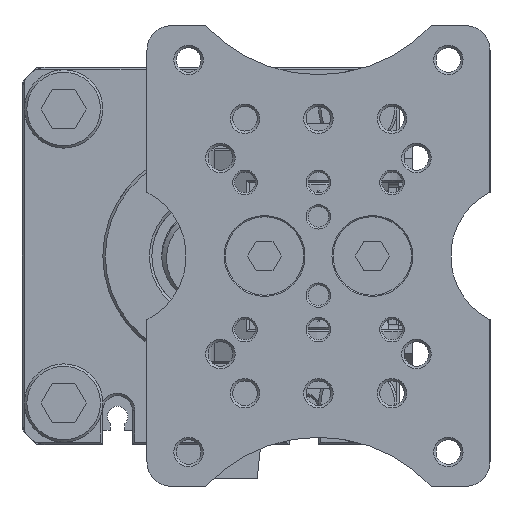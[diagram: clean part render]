
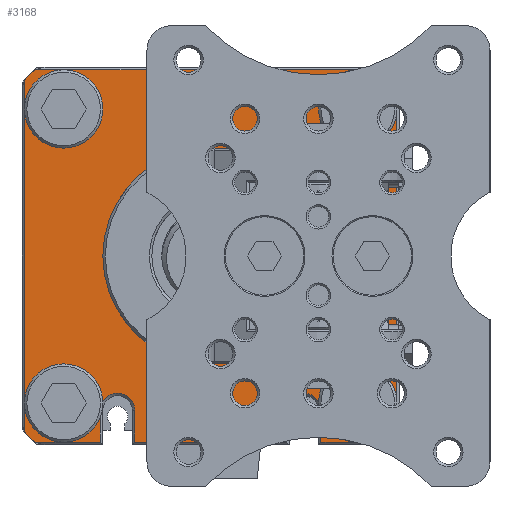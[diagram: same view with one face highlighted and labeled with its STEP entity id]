
A CAD part, front view. The second image highlights one B-rep face of the part: STEP entity #3168.
In plain terms, the highlighted planar face has unit normal (0, -1, 0).
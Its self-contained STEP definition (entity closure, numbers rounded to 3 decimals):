
#489=LINE('',#18473,#1389);
#496=LINE('',#18496,#1396);
#498=LINE('',#18508,#1398);
#510=LINE('',#18558,#1410);
#511=LINE('',#18562,#1411);
#512=LINE('',#18564,#1412);
#513=LINE('',#18568,#1413);
#514=LINE('',#18570,#1414);
#515=LINE('',#18572,#1415);
#516=LINE('',#18576,#1416);
#517=LINE('',#18578,#1417);
#518=LINE('',#18590,#1418);
#519=LINE('',#18595,#1419);
#1389=VECTOR('',#14813,1.);
#1396=VECTOR('',#14834,1.);
#1398=VECTOR('',#14848,1.);
#1410=VECTOR('',#14894,1.);
#1411=VECTOR('',#14897,1.);
#1412=VECTOR('',#14898,1.);
#1413=VECTOR('',#14901,1.);
#1414=VECTOR('',#14902,1.);
#1415=VECTOR('',#14903,1.);
#1416=VECTOR('',#14906,1.);
#1417=VECTOR('',#14907,1.);
#1418=VECTOR('',#14918,1.);
#1419=VECTOR('',#14923,1.);
#3168=ADVANCED_FACE('',(#4377,#4378,#4379,#4380,#4381,#4382),#3939,.T.);
#3939=PLANE('',#13147);
#4377=FACE_BOUND('',#5204,.T.);
#4378=FACE_BOUND('',#5205,.T.);
#4379=FACE_BOUND('',#5206,.T.);
#4380=FACE_BOUND('',#5207,.T.);
#4381=FACE_BOUND('',#5208,.T.);
#4382=FACE_BOUND('',#5209,.T.);
#5204=EDGE_LOOP('',(#6796,#6797,#6798,#6799,#6800,#6801,#6802,#6803,#6804,
#6805,#6806,#6807,#6808,#6809,#6810,#6811));
#5205=EDGE_LOOP('',(#6812));
#5206=EDGE_LOOP('',(#6813));
#5207=EDGE_LOOP('',(#6814));
#5208=EDGE_LOOP('',(#6815));
#5209=EDGE_LOOP('',(#6816,#6817,#6818,#6819,#6820,#6821));
#6796=ORIENTED_EDGE('',*,*,#11029,.T.);
#6797=ORIENTED_EDGE('',*,*,#11030,.F.);
#6798=ORIENTED_EDGE('',*,*,#11031,.T.);
#6799=ORIENTED_EDGE('',*,*,#11032,.T.);
#6800=ORIENTED_EDGE('',*,*,#11033,.T.);
#6801=ORIENTED_EDGE('',*,*,#11034,.T.);
#6802=ORIENTED_EDGE('',*,*,#11035,.T.);
#6803=ORIENTED_EDGE('',*,*,#11036,.T.);
#6804=ORIENTED_EDGE('',*,*,#11037,.T.);
#6805=ORIENTED_EDGE('',*,*,#11038,.T.);
#6806=ORIENTED_EDGE('',*,*,#11039,.T.);
#6807=ORIENTED_EDGE('',*,*,#11040,.T.);
#6808=ORIENTED_EDGE('',*,*,#11005,.F.);
#6809=ORIENTED_EDGE('',*,*,#11003,.F.);
#6810=ORIENTED_EDGE('',*,*,#10999,.T.);
#6811=ORIENTED_EDGE('',*,*,#10997,.T.);
#6812=ORIENTED_EDGE('',*,*,#11041,.T.);
#6813=ORIENTED_EDGE('',*,*,#11042,.T.);
#6814=ORIENTED_EDGE('',*,*,#11043,.T.);
#6815=ORIENTED_EDGE('',*,*,#11028,.T.);
#6816=ORIENTED_EDGE('',*,*,#11044,.F.);
#6817=ORIENTED_EDGE('',*,*,#11045,.T.);
#6818=ORIENTED_EDGE('',*,*,#11046,.T.);
#6819=ORIENTED_EDGE('',*,*,#10988,.T.);
#6820=ORIENTED_EDGE('',*,*,#11047,.T.);
#6821=ORIENTED_EDGE('',*,*,#11048,.T.);
#9737=VERTEX_POINT('',#18472);
#9738=VERTEX_POINT('',#18474);
#9745=VERTEX_POINT('',#18491);
#9746=VERTEX_POINT('',#18493);
#9747=VERTEX_POINT('',#18497);
#9750=VERTEX_POINT('',#18505);
#9751=VERTEX_POINT('',#18509);
#9771=VERTEX_POINT('',#18556);
#9772=VERTEX_POINT('',#18559);
#9773=VERTEX_POINT('',#18561);
#9774=VERTEX_POINT('',#18563);
#9775=VERTEX_POINT('',#18565);
#9776=VERTEX_POINT('',#18567);
#9777=VERTEX_POINT('',#18569);
#9778=VERTEX_POINT('',#18571);
#9779=VERTEX_POINT('',#18573);
#9780=VERTEX_POINT('',#18575);
#9781=VERTEX_POINT('',#18577);
#9782=VERTEX_POINT('',#18579);
#9783=VERTEX_POINT('',#18582);
#9784=VERTEX_POINT('',#18584);
#9785=VERTEX_POINT('',#18586);
#9786=VERTEX_POINT('',#18588);
#9787=VERTEX_POINT('',#18589);
#9788=VERTEX_POINT('',#18591);
#9789=VERTEX_POINT('',#18594);
#10988=EDGE_CURVE('',#9738,#9737,#489,.T.);
#10997=EDGE_CURVE('',#9746,#9745,#12484,.T.);
#10999=EDGE_CURVE('',#9747,#9746,#496,.T.);
#11003=EDGE_CURVE('',#9747,#9750,#12486,.T.);
#11005=EDGE_CURVE('',#9750,#9751,#498,.T.);
#11028=EDGE_CURVE('',#9771,#9771,#12497,.T.);
#11029=EDGE_CURVE('',#9745,#9772,#510,.T.);
#11030=EDGE_CURVE('',#9773,#9772,#12498,.T.);
#11031=EDGE_CURVE('',#9773,#9774,#511,.T.);
#11032=EDGE_CURVE('',#9774,#9775,#512,.T.);
#11033=EDGE_CURVE('',#9775,#9776,#12499,.T.);
#11034=EDGE_CURVE('',#9776,#9777,#513,.T.);
#11035=EDGE_CURVE('',#9777,#9778,#514,.T.);
#11036=EDGE_CURVE('',#9778,#9779,#515,.T.);
#11037=EDGE_CURVE('',#9779,#9780,#12500,.T.);
#11038=EDGE_CURVE('',#9780,#9781,#516,.T.);
#11039=EDGE_CURVE('',#9781,#9782,#517,.T.);
#11040=EDGE_CURVE('',#9782,#9751,#12501,.T.);
#11041=EDGE_CURVE('',#9783,#9783,#12502,.T.);
#11042=EDGE_CURVE('',#9784,#9784,#12503,.T.);
#11043=EDGE_CURVE('',#9785,#9785,#12504,.T.);
#11044=EDGE_CURVE('',#9786,#9787,#12505,.T.);
#11045=EDGE_CURVE('',#9786,#9788,#518,.T.);
#11046=EDGE_CURVE('',#9788,#9738,#12506,.T.);
#11047=EDGE_CURVE('',#9737,#9789,#12507,.T.);
#11048=EDGE_CURVE('',#9789,#9787,#519,.T.);
#12484=CIRCLE('',#13111,5.);
#12486=CIRCLE('',#13117,5.);
#12497=CIRCLE('',#13135,5.8);
#12498=CIRCLE('',#13137,5.);
#12499=CIRCLE('',#13138,3.5);
#12500=CIRCLE('',#13139,3.5);
#12501=CIRCLE('',#13140,5.);
#12502=CIRCLE('',#13141,5.8);
#12503=CIRCLE('',#13142,5.8);
#12504=CIRCLE('',#13143,5.8);
#12505=CIRCLE('',#13144,22.);
#12506=CIRCLE('',#13145,6.);
#12507=CIRCLE('',#13146,6.);
#13111=AXIS2_PLACEMENT_3D('',#18492,#14828,#14829);
#13117=AXIS2_PLACEMENT_3D('',#18504,#14842,#14843);
#13135=AXIS2_PLACEMENT_3D('',#18555,#14890,#14891);
#13137=AXIS2_PLACEMENT_3D('',#18560,#14895,#14896);
#13138=AXIS2_PLACEMENT_3D('',#18566,#14899,#14900);
#13139=AXIS2_PLACEMENT_3D('',#18574,#14904,#14905);
#13140=AXIS2_PLACEMENT_3D('',#18580,#14908,#14909);
#13141=AXIS2_PLACEMENT_3D('',#18581,#14910,#14911);
#13142=AXIS2_PLACEMENT_3D('',#18583,#14912,#14913);
#13143=AXIS2_PLACEMENT_3D('',#18585,#14914,#14915);
#13144=AXIS2_PLACEMENT_3D('',#18587,#14916,#14917);
#13145=AXIS2_PLACEMENT_3D('',#18592,#14919,#14920);
#13146=AXIS2_PLACEMENT_3D('',#18593,#14921,#14922);
#13147=AXIS2_PLACEMENT_3D('',#18596,#14924,#14925);
#14813=DIRECTION('',(0.,0.,-1.));
#14828=DIRECTION('',(0.,-1.,0.));
#14829=DIRECTION('',(-0.436,0.,0.9));
#14834=DIRECTION('',(-1.,0.,0.));
#14842=DIRECTION('',(0.,1.,0.));
#14843=DIRECTION('',(0.436,0.,0.9));
#14848=DIRECTION('',(0.,0.,-1.));
#14890=DIRECTION('',(0.,1.,0.));
#14891=DIRECTION('',(0.,0.,-1.));
#14894=DIRECTION('',(0.,0.,-1.));
#14895=DIRECTION('',(0.,1.,0.));
#14896=DIRECTION('',(-0.436,0.,-0.9));
#14897=DIRECTION('',(1.,0.,0.));
#14898=DIRECTION('',(0.,0.,1.));
#14899=DIRECTION('',(0.,1.,0.));
#14900=DIRECTION('',(-1.,0.,0.));
#14901=DIRECTION('',(0.,0.,-1.));
#14902=DIRECTION('',(1.,0.,0.));
#14903=DIRECTION('',(0.,0.,1.));
#14904=DIRECTION('',(0.,1.,0.));
#14905=DIRECTION('',(-1.,0.,0.));
#14906=DIRECTION('',(0.,0.,-1.));
#14907=DIRECTION('',(1.,0.,0.));
#14908=DIRECTION('',(0.,-1.,0.));
#14909=DIRECTION('',(0.436,0.,-0.9));
#14910=DIRECTION('',(0.,1.,0.));
#14911=DIRECTION('',(0.,0.,1.));
#14912=DIRECTION('',(0.,1.,0.));
#14913=DIRECTION('',(0.,0.,1.));
#14914=DIRECTION('',(0.,1.,0.));
#14915=DIRECTION('',(0.,0.,-1.));
#14916=DIRECTION('',(0.,-1.,0.));
#14917=DIRECTION('',(0.,0.,1.));
#14918=DIRECTION('',(1.,0.,0.));
#14919=DIRECTION('',(0.,1.,0.));
#14920=DIRECTION('',(0.,0.,1.));
#14921=DIRECTION('',(0.,1.,0.));
#14922=DIRECTION('',(1.,0.,0.));
#14923=DIRECTION('',(-1.,0.,0.));
#14924=DIRECTION('',(0.,-1.,0.));
#14925=DIRECTION('',(-1.,0.,0.));
#18472=CARTESIAN_POINT('',(55.75,-11.,-54.5));
#18473=CARTESIAN_POINT('',(55.75,-11.,-22.5));
#18474=CARTESIAN_POINT('',(55.75,-11.,-22.5));
#18491=CARTESIAN_POINT('',(0.5,-11.,-2.821));
#18492=CARTESIAN_POINT('',(5.,-11.,-5.));
#18493=CARTESIAN_POINT('',(2.821,-11.,-0.5));
#18496=CARTESIAN_POINT('',(74.179,-11.,-0.5));
#18497=CARTESIAN_POINT('',(74.179,-11.,-0.5));
#18504=CARTESIAN_POINT('',(72.,-11.,-5.));
#18505=CARTESIAN_POINT('',(76.5,-11.,-2.821));
#18508=CARTESIAN_POINT('',(76.5,-11.,-2.821));
#18509=CARTESIAN_POINT('',(76.5,-11.,-74.179));
#18555=CARTESIAN_POINT('',(8.5,-11.,-8.5));
#18556=CARTESIAN_POINT('',(8.5,-11.,-14.3));
#18558=CARTESIAN_POINT('',(0.5,-11.,-2.821));
#18559=CARTESIAN_POINT('',(0.5,-11.,-74.179));
#18560=CARTESIAN_POINT('',(5.,-11.,-72.));
#18561=CARTESIAN_POINT('',(2.821,-11.,-76.5));
#18562=CARTESIAN_POINT('',(2.821,-11.,-76.5));
#18563=CARTESIAN_POINT('',(16.,-11.,-76.5));
#18564=CARTESIAN_POINT('',(16.,-11.,-76.5));
#18565=CARTESIAN_POINT('',(16.,-11.,-70.));
#18566=CARTESIAN_POINT('',(19.5,-11.,-70.));
#18567=CARTESIAN_POINT('',(23.,-11.,-70.));
#18568=CARTESIAN_POINT('',(23.,-11.,-70.));
#18569=CARTESIAN_POINT('',(23.,-11.,-76.5));
#18570=CARTESIAN_POINT('',(23.,-11.,-76.5));
#18571=CARTESIAN_POINT('',(54.,-11.,-76.5));
#18572=CARTESIAN_POINT('',(54.,-11.,-76.5));
#18573=CARTESIAN_POINT('',(54.,-11.,-70.));
#18574=CARTESIAN_POINT('',(57.5,-11.,-70.));
#18575=CARTESIAN_POINT('',(61.,-11.,-70.));
#18576=CARTESIAN_POINT('',(61.,-11.,-70.));
#18577=CARTESIAN_POINT('',(61.,-11.,-76.5));
#18578=CARTESIAN_POINT('',(61.,-11.,-76.5));
#18579=CARTESIAN_POINT('',(74.179,-11.,-76.5));
#18580=CARTESIAN_POINT('',(72.,-11.,-72.));
#18581=CARTESIAN_POINT('',(68.5,-11.,-68.5));
#18582=CARTESIAN_POINT('',(68.5,-11.,-62.7));
#18583=CARTESIAN_POINT('',(68.5,-11.,-8.5));
#18584=CARTESIAN_POINT('',(68.5,-11.,-2.7));
#18585=CARTESIAN_POINT('',(8.5,-11.,-68.5));
#18586=CARTESIAN_POINT('',(8.5,-11.,-74.3));
#18587=CARTESIAN_POINT('',(38.5,-11.,-38.5));
#18588=CARTESIAN_POINT('',(38.5,-11.,-16.5));
#18589=CARTESIAN_POINT('',(38.5,-11.,-60.5));
#18590=CARTESIAN_POINT('',(38.5,-11.,-16.5));
#18591=CARTESIAN_POINT('',(49.75,-11.,-16.5));
#18592=CARTESIAN_POINT('',(49.75,-11.,-22.5));
#18593=CARTESIAN_POINT('',(49.75,-11.,-54.5));
#18594=CARTESIAN_POINT('',(49.75,-11.,-60.5));
#18595=CARTESIAN_POINT('',(49.75,-11.,-60.5));
#18596=CARTESIAN_POINT('',(0.,-11.,0.));
